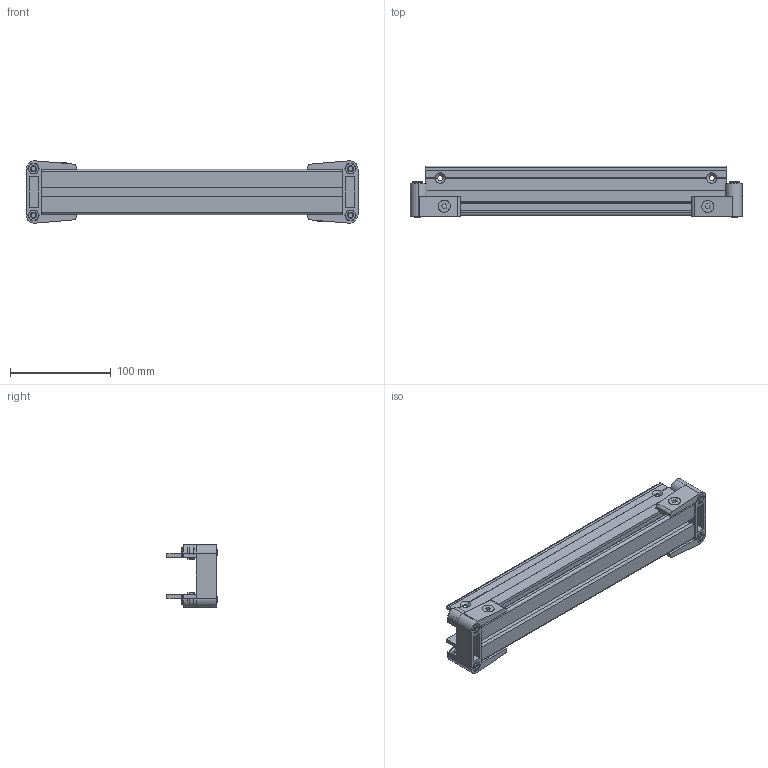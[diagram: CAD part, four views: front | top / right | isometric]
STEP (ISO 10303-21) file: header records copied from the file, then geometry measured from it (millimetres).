
FILE_DESCRIPTION (( 'STEP AP203' ), '1' );
FILE_NAME ('801.300.000.STEP', '2014-03-26T13:38:06', ( '' ), ( '' ), 'SwSTEP 2.0', 'SolidWorks 2012', '' );
FILE_SCHEMA (( 'CONFIG_CONTROL_DESIGN' ));
Length unit declared in the file: millimetre
Products named in the file (1): 801.300.000
Bounding box: 330 x 51.3 x 62 mm (x, y, z)
Surface area: 119272.1 mm2 (no closed solid volume)
Topology: 0 solids, 27 shells, 353 faces, 1004 edges, 664 vertices
Faces by surface type: plane 187, cylinder 82, cone 60, torus 24
Entity records: 11475 total; most frequent: CARTESIAN_POINT 2226, DIRECTION 1948, ORIENTED_EDGE 1756, EDGE_CURVE 1004, VERTEX_POINT 664, AXIS2_PLACEMENT_3D 654, VECTOR 640, LINE 640
